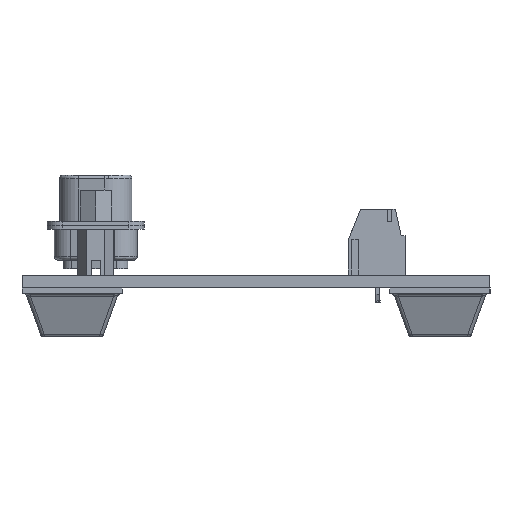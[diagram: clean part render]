
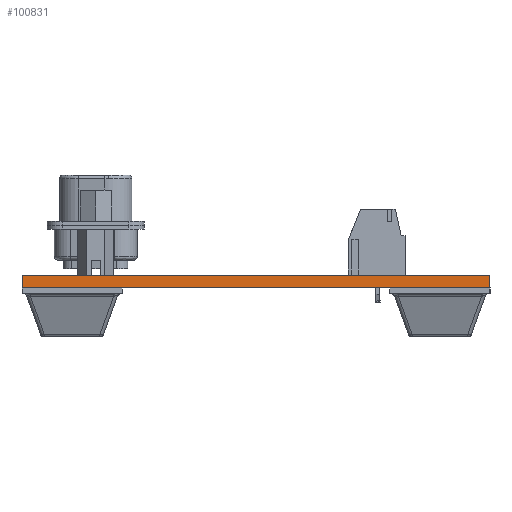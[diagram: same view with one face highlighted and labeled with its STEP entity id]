
A CAD part, front view. The second image highlights one B-rep face of the part: STEP entity #100831.
In plain terms, the highlighted planar face has unit normal (0, -1, 0).
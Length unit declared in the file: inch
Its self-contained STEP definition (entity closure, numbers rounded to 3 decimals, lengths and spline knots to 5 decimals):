
#8204 = DIRECTION ( 'NONE',  ( 0., 0., 1. ) ) ;
#9580 = CARTESIAN_POINT ( 'NONE',  ( 25.21, 5.298, 0. ) ) ;
#11095 = CARTESIAN_POINT ( 'NONE',  ( 25.21, 5.298, -0.062 ) ) ;
#16394 = VECTOR ( 'NONE', #38879, 39.37008 ) ;
#17041 = VERTEX_POINT ( 'NONE', #124973 ) ;
#32501 = LINE ( 'NONE', #145140, #148672 ) ;
#33572 = ORIENTED_EDGE ( 'NONE', *, *, #119400, .T. ) ;
#36522 = DIRECTION ( 'NONE',  ( 0., 0., 1. ) ) ;
#38879 = DIRECTION ( 'NONE',  ( 1., 0., 0. ) ) ;
#44606 = DIRECTION ( 'NONE',  ( 1., 0., 0. ) ) ;
#44903 = FACE_OUTER_BOUND ( 'NONE', #149997, .T. ) ;
#47266 = AXIS2_PLACEMENT_3D ( 'NONE', #89572, #103035, #152352 ) ;
#48627 = LINE ( 'NONE', #11095, #129915 ) ;
#49336 = LINE ( 'NONE', #72374, #16394 ) ;
#62908 = ORIENTED_EDGE ( 'NONE', *, *, #117317, .F. ) ;
#68968 = ORIENTED_EDGE ( 'NONE', *, *, #76739, .F. ) ;
#71053 = EDGE_CURVE ( 'NONE', #133538, #17041, #155503, .T. ) ;
#72374 = CARTESIAN_POINT ( 'NONE',  ( 22.83, 5.298, 0. ) ) ;
#76739 = EDGE_CURVE ( 'NONE', #101928, #126352, #49336, .T. ) ;
#78122 = PLANE ( 'NONE',  #47266 ) ;
#78891 = CARTESIAN_POINT ( 'NONE',  ( 22.83, 5.298, -0.062 ) ) ;
#89572 = CARTESIAN_POINT ( 'NONE',  ( 22.83, 5.298, -0.062 ) ) ;
#93499 = VECTOR ( 'NONE', #44606, 39.37008 ) ;
#93813 = CARTESIAN_POINT ( 'NONE',  ( 22.83, 5.298, -0.062 ) ) ;
#100831 = ADVANCED_FACE ( 'NONE', ( #44903 ), #78122, .T. ) ;
#101928 = VERTEX_POINT ( 'NONE', #106998 ) ;
#103035 = DIRECTION ( 'NONE',  ( 0., -1., 0. ) ) ;
#106998 = CARTESIAN_POINT ( 'NONE',  ( 22.83, 5.298, 0. ) ) ;
#117317 = EDGE_CURVE ( 'NONE', #133538, #101928, #32501, .T. ) ;
#119400 = EDGE_CURVE ( 'NONE', #17041, #126352, #48627, .T. ) ;
#124973 = CARTESIAN_POINT ( 'NONE',  ( 25.21, 5.298, -0.062 ) ) ;
#126352 = VERTEX_POINT ( 'NONE', #9580 ) ;
#129915 = VECTOR ( 'NONE', #36522, 39.37008 ) ;
#133538 = VERTEX_POINT ( 'NONE', #78891 ) ;
#145140 = CARTESIAN_POINT ( 'NONE',  ( 22.83, 5.298, -0.062 ) ) ;
#146056 = ORIENTED_EDGE ( 'NONE', *, *, #71053, .T. ) ;
#148672 = VECTOR ( 'NONE', #8204, 39.37008 ) ;
#149997 = EDGE_LOOP ( 'NONE', ( #68968, #62908, #146056, #33572 ) ) ;
#152352 = DIRECTION ( 'NONE',  ( 0., 0., -1. ) ) ;
#155503 = LINE ( 'NONE', #93813, #93499 ) ;
